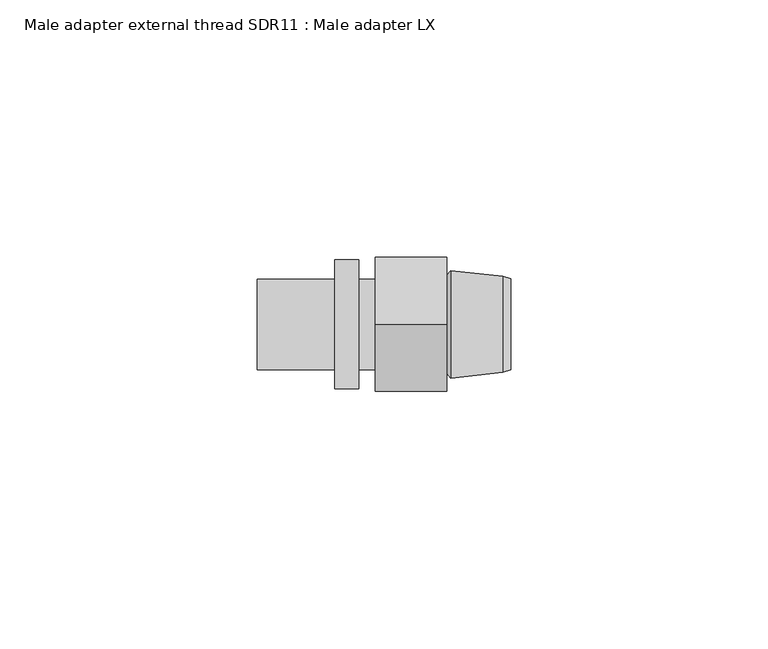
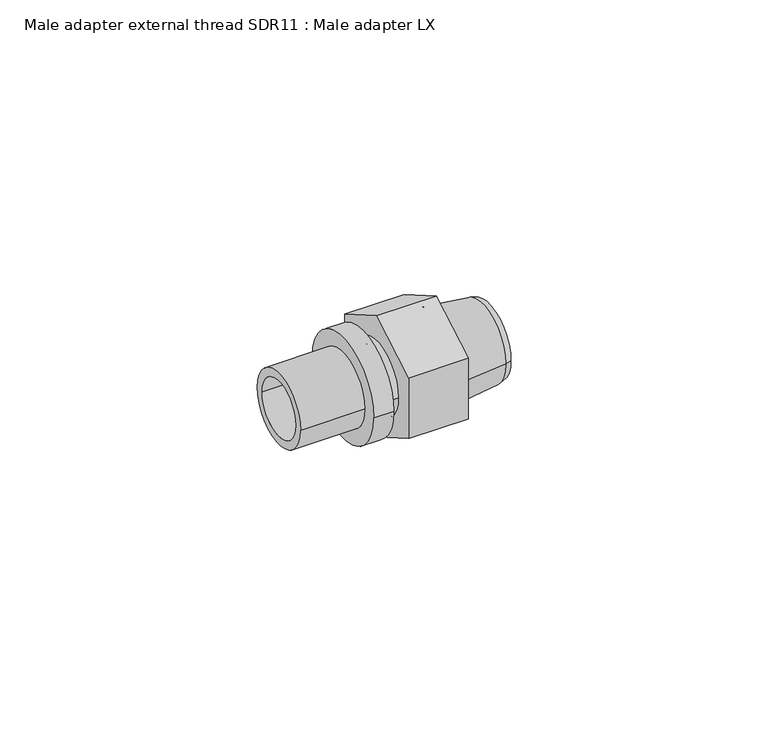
"""IFC4 building model written with IfcOpenShell, lengths in millimetres: pipe fitting geometry, Male adapter external thread SDR11 : Male adapter LX."""

import ifcopenshell
import ifcopenshell.guid

model = None  # the IFC model being written
_history = None  # IfcOwnerHistory: only IFC2X3 demands one
_inside = {}  # id of a spatial element -> (the spatial element, [elements in it])
_under = {}  # id of a project, library or spatial element -> (it, [spatial elements below it])
_declared = {}  # id of a project -> (the project, [libraries it declares])
_typed = {}  # id of a type object -> (the type object, [elements of that type])
_made_of = {}  # id of a material, layer set ... -> (it, [elements and type objects made of it])


def new_model(schema):
    """Start an empty IFC model of exactly this schema.

    Asked for "IFC4X3", IfcOpenShell would pick the latest addendum, in which some entities
    have other attributes; the version numbers below select the first issue.
    IFC2X3 requires an IfcOwnerHistory on every rooted entity: one is made here for all.
    """
    global model, _history
    if schema == "IFC4X3":
        model = ifcopenshell.file(schema_version=(4, 3, 0, 0))
    else:
        model = ifcopenshell.file(schema=schema)
    _inside.clear()
    _under.clear()
    _declared.clear()
    _typed.clear()
    _made_of.clear()
    _history = None
    if model.schema == "IFC2X3":
        org = make("IfcOrganization", Name="unknown")
        user = make(
            "IfcPersonAndOrganization",
            ThePerson=make("IfcPerson", FamilyName="unknown"),
            TheOrganization=org,
        )
        app = make(
            "IfcApplication",
            ApplicationDeveloper=org,
            Version="unknown",
            ApplicationFullName="unknown",
            ApplicationIdentifier="unknown",
        )
        _history = make(
            "IfcOwnerHistory",
            OwningUser=user,
            OwningApplication=app,
            ChangeAction="ADDED",
            CreationDate=0,
        )
    return model


def make(cls, **values):
    """One entity of the class cls with the attributes given. An attribute that is None is left unset."""
    return model.create_entity(
        cls, **{name: value for name, value in values.items() if value is not None}
    )


def rooted(cls, **values):
    """An entity with a GlobalId (a new one), such as an element, a storey or a relation."""
    return make(cls, GlobalId=ifcopenshell.guid.new(), OwnerHistory=_history, **values)


def si_unit(unit_type, name, prefix=None):
    """IfcSIUnit, for example si_unit("LENGTHUNIT", "METRE", prefix="MILLI")."""
    return make("IfcSIUnit", UnitType=unit_type, Prefix=prefix, Name=name)


def assignment(units):
    """IfcUnitAssignment: the units of a project."""
    return None if units is None else make("IfcUnitAssignment", Units=units)


def point(xyz):
    """IfcCartesianPoint."""
    return None if xyz is None else make("IfcCartesianPoint", Coordinates=xyz)


def direction(xyz):
    """IfcDirection."""
    return None if xyz is None else make("IfcDirection", DirectionRatios=xyz)


def frame(location, z_axis=None, x_axis=None):
    """IfcAxis2Placement3D, a coordinate frame: its origin and axes. An axis left out is left unset."""
    return make(
        "IfcAxis2Placement3D",
        Location=point(location),
        Axis=direction(z_axis),
        RefDirection=direction(x_axis),
    )


def origin():
    """The frame at (0, 0, 0) with its axes left unset."""
    return frame((0.0, 0.0, 0.0))


def place(relative_to, where):
    """IfcLocalPlacement: puts the frame where relative to a parent placement (None: the world)."""
    return make(
        "IfcLocalPlacement", PlacementRelTo=relative_to, RelativePlacement=where
    )


def context(
    kind, dimensions, precision=None, world=None, true_north=None, identifier=None
):
    """IfcGeometricRepresentationContext, for example the 3D "Model" context."""
    return make(
        "IfcGeometricRepresentationContext",
        ContextIdentifier=identifier,
        ContextType=kind,
        CoordinateSpaceDimension=dimensions,
        Precision=precision,
        WorldCoordinateSystem=world,
        TrueNorth=true_north,
    )


def project(units=None, contexts=None):
    """IfcProject with its units and contexts."""
    return rooted(
        "IfcProject",
        Name="project",
        RepresentationContexts=contexts,
        UnitsInContext=assignment(units),
    )


def spatial(cls, under=None, at=None, **own):
    """A site, building, storey or space (cls), placed at a placement, below another one or the project."""
    s = rooted(cls, ObjectPlacement=at, **own)
    if under is not None:
        _under.setdefault(under.id(), (under, []))[1].append(s)
    return s


def polyline(points):
    """IfcPolyline through the points."""
    return make("IfcPolyline", Points=[point(p) for p in points])


def circle_curve(where, radius):
    """IfcCircle in the frame where."""
    return make("IfcCircle", Position=where, Radius=radius)


def outline(outer, holes=None, kind="AREA"):
    """IfcArbitraryClosedProfileDef: a profile drawn as a closed curve; with holes, ...WithVoids."""
    if holes is None:
        return make("IfcArbitraryClosedProfileDef", ProfileType=kind, OuterCurve=outer)
    return make(
        "IfcArbitraryProfileDefWithVoids",
        ProfileType=kind,
        OuterCurve=outer,
        InnerCurves=holes,
    )


def extrude(swept, where, along, depth):
    """IfcExtrudedAreaSolid: the profile swept, set in the frame where, extruded along a direction by depth."""
    return make(
        "IfcExtrudedAreaSolid",
        SweptArea=swept,
        Position=where,
        ExtrudedDirection=direction(along),
        Depth=depth,
    )


def shape(context_of_items, identifier, shape_type, items):
    """IfcShapeRepresentation: the items that make up one representation, for example the "Body"."""
    return make(
        "IfcShapeRepresentation",
        ContextOfItems=context_of_items,
        RepresentationIdentifier=identifier,
        RepresentationType=shape_type,
        Items=items,
    )


def source(mapping_origin, context_of_items, identifier, shape_type, items):
    """IfcRepresentationMap: a shape defined once, which mapped items show again and again."""
    return make(
        "IfcRepresentationMap",
        MappingOrigin=mapping_origin,
        MappedRepresentation=shape(context_of_items, identifier, shape_type, items),
    )


def transform(
    local_origin,
    x_axis=None,
    y_axis=None,
    z_axis=None,
    scale=None,
    scale2=None,
    scale3=None,
    uniform=True,
):
    """IfcCartesianTransformationOperator3D, or its non-uniform kind. x_axis, y_axis, z_axis: its Axis1, 2, 3."""
    if uniform:
        return make(
            "IfcCartesianTransformationOperator3D",
            Axis1=direction(x_axis),
            Axis2=direction(y_axis),
            LocalOrigin=point(local_origin),
            Scale=scale,
            Axis3=direction(z_axis),
        )
    return make(
        "IfcCartesianTransformationOperator3DnonUniform",
        Axis1=direction(x_axis),
        Axis2=direction(y_axis),
        LocalOrigin=point(local_origin),
        Scale=scale,
        Axis3=direction(z_axis),
        Scale2=scale2,
        Scale3=scale3,
    )


def mapped(mapping_source, mapping_target):
    """IfcMappedItem: shows the shape of a source again, moved by a transform."""
    return make(
        "IfcMappedItem", MappingSource=mapping_source, MappingTarget=mapping_target
    )


def made_of(thing, what):
    """Note that an element or type object is made of a material, layer set ...; save() writes the relation."""
    if what is not None:
        _made_of.setdefault(what.id(), (what, []))[1].append(thing)
    return thing


def element(
    cls,
    number,
    at=None,
    inside=None,
    cuts=None,
    type_object=None,
    material=None,
    context=None,
    identifier="Body",
    shape_type=None,
    held_by="IfcProductDefinitionShape",
    body=None,
    shapes=None,
    **own,
):
    """One element of the class cls, such as IfcWall. Its Tag is "e" and its number.

    at: its placement. inside: the storey or other place that contains it. cuts: it is an
    opening in that element (IfcRelVoidsElement). A single representation is given by context,
    identifier, shape_type and body (its items); several are given by shapes. held_by: the class
    of the entity that holds the representations. save() writes the other relations.
    """
    e = rooted(cls, Tag="e%d" % number, ObjectPlacement=at, **own)
    if body is not None:
        shapes = [shape(context, identifier, shape_type, body)]
    if shapes is not None:
        e.Representation = make(held_by, Representations=shapes)
    if inside is not None:
        _inside.setdefault(inside.id(), (inside, []))[1].append(e)
    if cuts is not None:
        rooted(
            "IfcRelVoidsElement", RelatingBuildingElement=cuts, RelatedOpeningElement=e
        )
    if type_object is not None:
        _typed.setdefault(type_object.id(), (type_object, []))[1].append(e)
    return made_of(e, material)


def aggregate(whole, parts):
    """IfcRelAggregates: a whole, such as a stair, and the parts it consists of."""
    return rooted("IfcRelAggregates", RelatingObject=whole, RelatedObjects=parts)


def save(model, path):
    """Write the relations noted so far, then the file.

    IfcRelAggregates (storeys below a building ...), IfcRelContainedInSpatialStructure (elements
    in a storey), IfcRelDefinesByType, IfcRelAssociatesMaterial and IfcRelDeclares: one each for
    every whole, place, type object, material and project.
    """
    for whole, parts in _under.values():
        aggregate(whole, parts)
    for where, things in _inside.values():
        rooted(
            "IfcRelContainedInSpatialStructure",
            RelatedElements=things,
            RelatingStructure=where,
        )
    for kind, things in _typed.values():
        rooted("IfcRelDefinesByType", RelatedObjects=things, RelatingType=kind)
    for what, things in _made_of.values():
        rooted("IfcRelAssociatesMaterial", RelatedObjects=things, RelatingMaterial=what)
    for by, libraries in _declared.values():
        rooted("IfcRelDeclares", RelatingContext=by, RelatedDefinitions=libraries)
    model.write(path)


def plane_surface(at):
    """IfcPlane: the flat surface through the origin of the frame at, square to its z axis."""
    return make("IfcPlane", Position=at)


def cylinder_surface(at, radius):
    """IfcCylindricalSurface: all points at the distance radius from the z axis of the frame at."""
    return make("IfcCylindricalSurface", Position=at, Radius=radius)


def revolved_surface(curve, axis_point, axis_direction):
    """IfcSurfaceOfRevolution: the curve turned about the line through axis_point along axis_direction."""
    return make(
        "IfcSurfaceOfRevolution",
        SweptCurve=make("IfcArbitraryOpenProfileDef", ProfileType="CURVE", Curve=curve),
        AxisPosition=make("IfcAxis1Placement", Location=point(axis_point), Axis=direction(axis_direction)),
    )


def advanced_brep(points, edges, surfaces, faces):
    """IfcAdvancedBrep: a solid bounded by faces that lie on surfaces and meet in shared edges.

    An edge is (start, end): straight between two places in points (the first is 0);
    or (start, end, curve); or (start, end, curve, False) where it runs against its curve.
    A face is (place in surfaces, loops), or (place, loops, False) where it looks against
    its surface's normal. A loop lists edges by number (the first is 1), with a minus sign
    where the edge is run from its end to its start. The first loop is the outer one.
    """
    corners = [point(p) for p in points]
    vertices = [make("IfcVertexPoint", VertexGeometry=c) for c in corners]
    made = []
    for start, end, *more in edges:
        made.append(
            make(
                "IfcEdgeCurve",
                EdgeStart=vertices[start],
                EdgeEnd=vertices[end],
                EdgeGeometry=more[0] if more else make("IfcPolyline", Points=[corners[start], corners[end]]),
                SameSense=more[1] if len(more) > 1 else True,
            )
        )
    hull = []
    for where, loops, *sense in faces:
        bounds = []
        for j, loop in enumerate(loops):
            ring = [make("IfcOrientedEdge", EdgeElement=made[abs(k) - 1], Orientation=k > 0) for k in loop]
            bounds.append(
                make(
                    "IfcFaceOuterBound" if j == 0 else "IfcFaceBound",
                    Bound=make("IfcEdgeLoop", EdgeList=ring),
                    Orientation=True,
                )
            )
        hull.append(make("IfcAdvancedFace", Bounds=bounds, FaceSurface=surfaces[where], SameSense=sense[0] if sense else True))
    return make("IfcAdvancedBrep", Outer=make("IfcClosedShell", CfsFaces=hull))


def male_adapter_external_thread_sdr11_male_adapter_lx_4a5881c0(model_context):
    return source(origin(), model_context, "Body", "SolidModel", [
        advanced_brep(
        [(-7.9, 8.8, 0.0), (-7.9, -8.8, 0.0), (-22.9, -8.8, 0.0), (-22.9, 8.8, 0.0), (-3.2, 12.5, 0.0), (-3.2, -12.5, 0.0), (-7.9, -12.5, 0.0), (-7.9, 12.5, 0.0), (0.0, 8.8, 0.0), (0.0, -8.8, 0.0), (-3.2, -8.8, 0.0), (-3.2, 8.8, 0.0), (-22.9, 6.8, 0.0), (-22.9, -6.8, 0.0), (0.0, -6.8, 0.0), (0.0, 6.8, 0.0)],
        [
            (0, 1, circle_curve(frame((-7.9, 0.0, 0.0), z_axis=(-1.0, 0.0, 0.0), x_axis=(0.0, -1.0, 0.0)), 8.8)),
            (1, 2),
            (2, 3, circle_curve(frame((-22.9, 0.0, 0.0), z_axis=(1.0, 0.0, 0.0), x_axis=(0.0, -1.0, 0.0)), 8.8)),
            (3, 0),
            (4, 5, circle_curve(frame((-3.2, 0.0, 0.0), z_axis=(-1.0, 0.0, 0.0), x_axis=(0.0, -1.0, 0.0)), 12.5)),
            (5, 6),
            (6, 7, circle_curve(frame((-7.9, 0.0, 0.0), z_axis=(1.0, 0.0, 0.0), x_axis=(0.0, -1.0, 0.0)), 12.5)),
            (7, 4),
            (8, 9, circle_curve(frame((0.0, 0.0, 0.0), z_axis=(-1.0, 0.0, 0.0), x_axis=(0.0, -1.0, 0.0)), 8.8)),
            (9, 10),
            (10, 11, circle_curve(frame((-3.2, 0.0, 0.0), z_axis=(1.0, 0.0, 0.0), x_axis=(0.0, -1.0, 0.0)), 8.8)),
            (11, 8),
            (12, 13, circle_curve(frame((-22.9, 0.0, 0.0), z_axis=(-1.0, 0.0, 0.0), x_axis=(0.0, -1.0, 0.0)), 6.8)),
            (13, 14),
            (14, 15, circle_curve(frame((0.0, 0.0, 0.0), z_axis=(1.0, 0.0, 0.0), x_axis=(0.0, -1.0, 0.0)), 6.8)),
            (15, 12),
            (2, 3, circle_curve(frame((-22.9, 0.0, 0.0), z_axis=(-1.0, 0.0, 0.0), x_axis=(0.0, 1.0, 0.0)), 8.8)),
            (12, 13, circle_curve(frame((-22.9, 0.0, 0.0), z_axis=(1.0, 0.0, 0.0), x_axis=(0.0, 1.0, 0.0)), 6.8)),
            (1, 0, circle_curve(frame((-7.9, 0.0, 0.0), z_axis=(-1.0, 0.0, 0.0), x_axis=(0.0, 1.0, 0.0)), 8.8)),
            (6, 7, circle_curve(frame((-7.9, 0.0, 0.0), z_axis=(-1.0, 0.0, 0.0), x_axis=(0.0, 1.0, 0.0)), 12.5)),
            (5, 4, circle_curve(frame((-3.2, 0.0, 0.0), z_axis=(-1.0, 0.0, 0.0), x_axis=(0.0, 1.0, 0.0)), 12.5)),
            (10, 11, circle_curve(frame((-3.2, 0.0, 0.0), z_axis=(-1.0, 0.0, 0.0), x_axis=(0.0, 1.0, 0.0)), 8.8)),
            (9, 8, circle_curve(frame((0.0, 0.0, 0.0), z_axis=(-1.0, 0.0, 0.0), x_axis=(0.0, 1.0, 0.0)), 8.8)),
            (14, 15, circle_curve(frame((0.0, 0.0, 0.0), z_axis=(-1.0, 0.0, 0.0), x_axis=(0.0, 1.0, 0.0)), 6.8)),
        ],
        [
            cylinder_surface(frame((0.0, 0.0, 0.0), z_axis=(1.0, 0.0, 0.0), x_axis=(0.0, -1.0, 0.0)), 8.8),
            cylinder_surface(frame((0.0, 0.0, 0.0), z_axis=(1.0, 0.0, 0.0), x_axis=(0.0, -1.0, 0.0)), 12.5),
            revolved_surface(polyline([(0.0, -6.8, 0.0), (-22.9, -6.8, 0.0)]), (0.0, 0.0, 0.0), (1.0, 0.0, 0.0)),
            plane_surface(frame((-22.9, 0.0, 0.0), z_axis=(-1.0, 0.0, 0.0), x_axis=(0.0, 1.0, 0.0))),
            cylinder_surface(frame((0.0, 0.0, 0.0), z_axis=(1.0, 0.0, 0.0), x_axis=(0.0, 1.0, 0.0)), 8.8),
            plane_surface(frame((-7.9, 0.0, 0.0), z_axis=(-1.0, 0.0, 0.0), x_axis=(0.0, 1.0, 0.0))),
            cylinder_surface(frame((0.0, 0.0, 0.0), z_axis=(1.0, 0.0, 0.0), x_axis=(0.0, 1.0, 0.0)), 12.5),
            plane_surface(frame((-3.2, 0.0, 0.0), z_axis=(1.0, 0.0, 0.0), x_axis=(0.0, 1.0, 0.0))),
            plane_surface(frame((0.0, 0.0, 0.0), z_axis=(1.0, 0.0, 0.0), x_axis=(0.0, 1.0, 0.0))),
            revolved_surface(polyline([(0.0, 6.8, 0.0), (-22.9, 6.8, 0.0)]), (0.0, 0.0, 0.0), (1.0, 0.0, 0.0)),
        ],
        [
            (0, [[1, 2, 3, 4]]),
            (1, [[5, 6, 7, 8]]),
            (0, [[9, 10, 11, 12]]),
            (2, [[13, 14, 15, 16]]),
            (3, [[17, -3], [18, -13]]),
            (4, [[19, -4, -17, -2]]),
            (5, [[20, -7], [-19, -1]]),
            (6, [[21, -8, -20, -6]]),
            (7, [[-21, -5], [22, -11]]),
            (4, [[23, -12, -22, -10]]),
            (8, [[-23, -9], [24, -15]]),
            (9, [[-18, -16, -24, -14]]),
        ],
    ),
        advanced_brep(
        [(15.0032803, 6.8, 0.0), (15.0032803, -6.8, 0.0), (26.3, -6.8, 0.0), (26.3, 6.8, 0.0), (13.9, 5.6967197, 0.0), (13.9, -5.6967197, 0.0), (14.6406902, 10.45, 0.0), (14.6406902, -10.45, 0.0), (13.9, -9.5, 0.0), (13.9, 9.5, 0.0), (24.8000007, 9.3, 0.0), (24.8000007, -9.3, 0.0), (26.3, 8.85, 0.0), (26.3, -8.85, 0.0)],
        [
            (0, 1, circle_curve(frame((15.0032803, 0.0, 0.0), z_axis=(-1.0, 0.0, 0.0), x_axis=(0.0, -1.0, 0.0)), 6.8)),
            (1, 2),
            (2, 3, circle_curve(frame((26.3, 0.0, 0.0), z_axis=(1.0, 0.0, 0.0), x_axis=(0.0, -1.0, 0.0)), 6.8)),
            (3, 0),
            (4, 5, circle_curve(frame((13.9, 0.0, 0.0), z_axis=(-1.0, 0.0, 0.0), x_axis=(0.0, -1.0, 0.0)), 5.6967197)),
            (5, 1),
            (0, 4),
            (6, 7, circle_curve(frame((14.6406902, 0.0, 0.0), z_axis=(-1.0, 0.0, 0.0), x_axis=(0.0, -1.0, 0.0)), 10.45)),
            (7, 8),
            (8, 9, circle_curve(frame((13.9, 0.0, 0.0), z_axis=(1.0, 0.0, 0.0), x_axis=(0.0, -1.0, 0.0)), 9.5)),
            (9, 6),
            (10, 11, circle_curve(frame((24.8000007, 0.0, 0.0), z_axis=(-1.0, 0.0, 0.0), x_axis=(0.0, -1.0, 0.0)), 9.3)),
            (11, 7),
            (6, 10),
            (12, 13, circle_curve(frame((26.3, 0.0, 0.0), z_axis=(-1.0, 0.0, 0.0), x_axis=(0.0, -1.0, 0.0)), 8.85)),
            (13, 11),
            (10, 12),
            (1, 0, circle_curve(frame((15.0032803, 0.0, 0.0), z_axis=(-1.0, 0.0, 0.0), x_axis=(0.0, 1.0, 0.0)), 6.8)),
            (3, 2, circle_curve(frame((26.3, 0.0, 0.0), z_axis=(1.0, 0.0, 0.0), x_axis=(0.0, 1.0, 0.0)), 6.8)),
            (5, 4, circle_curve(frame((13.9, 0.0, 0.0), z_axis=(-1.0, 0.0, 0.0), x_axis=(0.0, 1.0, 0.0)), 5.6967197)),
            (8, 9, circle_curve(frame((13.9, 0.0, 0.0), z_axis=(-1.0, 0.0, 0.0), x_axis=(0.0, 1.0, 0.0)), 9.5)),
            (7, 6, circle_curve(frame((14.6406902, 0.0, 0.0), z_axis=(-1.0, 0.0, 0.0), x_axis=(0.0, 1.0, 0.0)), 10.45)),
            (11, 10, circle_curve(frame((24.8000007, 0.0, 0.0), z_axis=(-1.0, 0.0, 0.0), x_axis=(0.0, 1.0, 0.0)), 9.3)),
            (13, 12, circle_curve(frame((26.3, 0.0, 0.0), z_axis=(-1.0, 0.0, 0.0), x_axis=(0.0, 1.0, 0.0)), 8.85)),
        ],
        [
            revolved_surface(polyline([(26.3, -6.8, 0.0), (15.0032803, -6.8, 0.0)]), (0.0, 0.0, 0.0), (1.0, 0.0, 0.0)),
            revolved_surface(polyline([(15.0032803, -6.8, 0.0), (13.9, -5.6967197, 0.0)]), (0.0, 0.0, 0.0), (1.0, 0.0, 0.0)),
            revolved_surface(polyline([(13.9, -9.5, 0.0), (14.6406902, -10.45, 0.0)]), (0.0, 0.0, 0.0), (1.0, 0.0, 0.0)),
            revolved_surface(polyline([(14.6406902, -10.45, 0.0), (24.8000007, -9.3, 0.0)]), (0.0, 0.0, 0.0), (1.0, 0.0, 0.0)),
            revolved_surface(polyline([(24.8000007, -9.3, 0.0), (26.3, -8.85, 0.0)]), (0.0, 0.0, 0.0), (1.0, 0.0, 0.0)),
            revolved_surface(polyline([(26.3, 6.8, 0.0), (15.0032803, 6.8, 0.0)]), (0.0, 0.0, 0.0), (1.0, 0.0, 0.0)),
            revolved_surface(polyline([(15.0032803, 6.8, 0.0), (13.9, 5.6967197, 0.0)]), (0.0, 0.0, 0.0), (1.0, 0.0, 0.0)),
            plane_surface(frame((13.9, 0.0, 0.0), z_axis=(-1.0, 0.0, 0.0), x_axis=(0.0, 1.0, 0.0))),
            revolved_surface(polyline([(13.9, 9.5, 0.0), (14.6406902, 10.45, 0.0)]), (0.0, 0.0, 0.0), (1.0, 0.0, 0.0)),
            revolved_surface(polyline([(14.6406902, 10.45, 0.0), (24.8000007, 9.3, 0.0)]), (0.0, 0.0, 0.0), (1.0, 0.0, 0.0)),
            revolved_surface(polyline([(24.8000007, 9.3, 0.0), (26.3, 8.85, 0.0)]), (0.0, 0.0, 0.0), (1.0, 0.0, 0.0)),
            plane_surface(frame((26.3, 0.0, 0.0), z_axis=(1.0, 0.0, 0.0), x_axis=(0.0, 1.0, 0.0))),
        ],
        [
            (0, [[1, 2, 3, 4]]),
            (1, [[5, 6, -1, 7]]),
            (2, [[8, 9, 10, 11]]),
            (3, [[12, 13, -8, 14]]),
            (4, [[15, 16, -12, 17]]),
            (5, [[18, -4, 19, -2]]),
            (6, [[20, -7, -18, -6]]),
            (7, [[21, -10], [-20, -5]]),
            (8, [[22, -11, -21, -9]]),
            (9, [[23, -14, -22, -13]]),
            (10, [[24, -17, -23, -16]]),
            (11, [[-24, -15], [-19, -3]]),
        ],
    ),
        extrude(outline(polyline([(-13.0, 7.5055535), (0.0, 15.011107), (13.0, 7.5055535), (13.0, -7.5055535), (0.0, -15.011107), (-13.0, -7.5055535), (-13.0, 7.5055535)])), frame((0.0, 0.0, 0.0), z_axis=(1.0, 0.0, 0.0), x_axis=(0.0, 1.0, 0.0)), (0.0, 0.0, 1.0), 13.9),
    ])


if __name__ == "__main__":
    model = new_model("IFC4")
    model_context = context("Model", 3, world=origin())
    ifc_project = project(units=[si_unit("LENGTHUNIT", "METRE", prefix="MILLI")], contexts=[model_context])
    site = spatial("IfcSite", under=ifc_project)
    building = spatial("IfcBuilding", under=site)
    placement = place(None, origin())
    male_adapter_external_thread_sdr11_male_adapter_lx_shape = male_adapter_external_thread_sdr11_male_adapter_lx_4a5881c0(model_context)
    element("IfcPipeFitting", 1, ObjectType="Male adapter external thread SDR11 : Male adapter LX", at=placement, inside=building, context=model_context, shape_type="MappedRepresentation", body=[
        mapped(male_adapter_external_thread_sdr11_male_adapter_lx_shape, transform((0.0, 0.0, 0.0), x_axis=(1.0, 0.0, 0.0), y_axis=(0.0, 1.0, 0.0), z_axis=(0.0, 0.0, 1.0))),
    ])
    save(model, "model.ifc")
